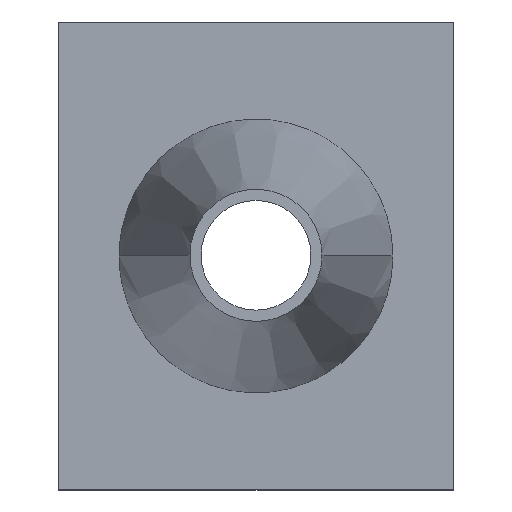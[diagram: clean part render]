
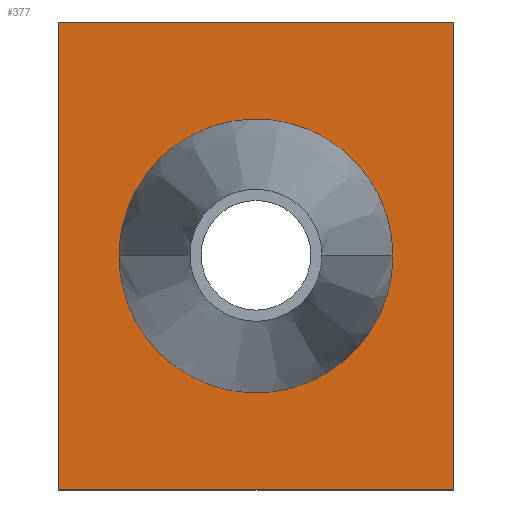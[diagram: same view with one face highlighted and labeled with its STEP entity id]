
A CAD part, top view. The second image highlights one B-rep face of the part: STEP entity #377.
In plain terms, the highlighted planar face has unit normal (0, 0, 1).
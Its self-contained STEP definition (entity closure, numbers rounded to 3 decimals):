
#167=CARTESIAN_POINT('Vertex',(0.,128.,3.)) ;
#174=CARTESIAN_POINT('Vertex',(0.,0.,3.)) ;
#177=CARTESIAN_POINT('Line Origine',(0.,64.,3.)) ;
#198=CARTESIAN_POINT('Vertex',(108.,128.,3.)) ;
#201=CARTESIAN_POINT('Line Origine',(54.,128.,3.)) ;
#222=CARTESIAN_POINT('Vertex',(108.,0.,3.)) ;
#225=CARTESIAN_POINT('Line Origine',(108.,64.,3.)) ;
#242=CARTESIAN_POINT('Line Origine',(54.,0.,3.)) ;
#324=CARTESIAN_POINT('Axis2P3D Location',(0.,0.,3.)) ;
#336=CARTESIAN_POINT('Control Point',(91.442,64.,3.)) ;
#337=CARTESIAN_POINT('Control Point',(91.442,70.011,3.)) ;
#338=CARTESIAN_POINT('Control Point',(90.236,76.021,3.)) ;
#339=CARTESIAN_POINT('Control Point',(87.822,81.71,3.)) ;
#340=CARTESIAN_POINT('Control Point',(80.852,91.797,3.)) ;
#341=CARTESIAN_POINT('Control Point',(70.529,98.415,3.)) ;
#342=CARTESIAN_POINT('Control Point',(64.76,100.631,3.)) ;
#343=CARTESIAN_POINT('Control Point',(52.66,102.625,3.)) ;
#344=CARTESIAN_POINT('Control Point',(40.728,99.797,3.)) ;
#345=CARTESIAN_POINT('Control Point',(35.126,97.187,3.)) ;
#346=CARTESIAN_POINT('Control Point',(25.712,90.186,3.)) ;
#347=CARTESIAN_POINT('Control Point',(19.579,80.228,3.)) ;
#348=CARTESIAN_POINT('Control Point',(17.564,74.983,3.)) ;
#349=CARTESIAN_POINT('Control Point',(16.558,69.491,3.)) ;
#350=CARTESIAN_POINT('Control Point',(16.558,64.,3.)) ;
#351=CARTESIAN_POINT('Vertex',(91.442,64.,3.)) ;
#353=CARTESIAN_POINT('Vertex',(16.558,64.,3.)) ;
#357=CARTESIAN_POINT('Control Point',(91.442,64.,3.)) ;
#358=CARTESIAN_POINT('Control Point',(91.442,57.989,3.)) ;
#359=CARTESIAN_POINT('Control Point',(90.236,51.979,3.)) ;
#360=CARTESIAN_POINT('Control Point',(87.822,46.29,3.)) ;
#361=CARTESIAN_POINT('Control Point',(80.852,36.203,3.)) ;
#362=CARTESIAN_POINT('Control Point',(70.529,29.585,3.)) ;
#363=CARTESIAN_POINT('Control Point',(64.76,27.369,3.)) ;
#364=CARTESIAN_POINT('Control Point',(52.66,25.375,3.)) ;
#365=CARTESIAN_POINT('Control Point',(40.728,28.203,3.)) ;
#366=CARTESIAN_POINT('Control Point',(35.126,30.813,3.)) ;
#367=CARTESIAN_POINT('Control Point',(25.712,37.814,3.)) ;
#368=CARTESIAN_POINT('Control Point',(19.579,47.772,3.)) ;
#369=CARTESIAN_POINT('Control Point',(17.564,53.017,3.)) ;
#370=CARTESIAN_POINT('Control Point',(16.558,58.509,3.)) ;
#371=CARTESIAN_POINT('Control Point',(16.558,64.,3.)) ;
#178=DIRECTION('Vector Direction',(0.,1.,0.)) ;
#202=DIRECTION('Vector Direction',(-1.,0.,0.)) ;
#226=DIRECTION('Vector Direction',(0.,1.,0.)) ;
#243=DIRECTION('Vector Direction',(1.,0.,0.)) ;
#325=DIRECTION('Axis2P3D Direction',(0.,0.,1.)) ;
#326=DIRECTION('Axis2P3D XDirection',(1.,0.,0.)) ;
#327=AXIS2_PLACEMENT_3D('Plane Axis2P3D',#324,#325,#326) ;
#330=ORIENTED_EDGE('',*,*,#181,.F.) ;
#331=ORIENTED_EDGE('',*,*,#246,.T.) ;
#332=ORIENTED_EDGE('',*,*,#229,.T.) ;
#333=ORIENTED_EDGE('',*,*,#205,.T.) ;
#374=ORIENTED_EDGE('',*,*,#355,.F.) ;
#375=ORIENTED_EDGE('',*,*,#372,.T.) ;
#376=FACE_BOUND('',#373,.T.) ;
#179=VECTOR('Line Direction',#178,1.) ;
#203=VECTOR('Line Direction',#202,1.) ;
#227=VECTOR('Line Direction',#226,1.) ;
#244=VECTOR('Line Direction',#243,1.) ;
#377=ADVANCED_FACE('PartBody',(#334,#376),#328,.T.) ;
#335=B_SPLINE_CURVE_WITH_KNOTS('',5,(#336,#337,#338,#339,#340,#341,#342,#343,#344,#345,#346,#347,#348,#349,#350),.UNSPECIFIED.,.F.,.U.,(6,3,3,3,6),(0.,32.375,64.755,97.135,126.713),.UNSPECIFIED.) ;
#356=B_SPLINE_CURVE_WITH_KNOTS('',5,(#357,#358,#359,#360,#361,#362,#363,#364,#365,#366,#367,#368,#369,#370,#371),.UNSPECIFIED.,.F.,.U.,(6,3,3,3,6),(0.,32.375,64.755,97.135,126.713),.UNSPECIFIED.) ;
#181=EDGE_CURVE('',#175,#168,#180,.T.) ;
#205=EDGE_CURVE('',#199,#168,#204,.T.) ;
#229=EDGE_CURVE('',#223,#199,#228,.T.) ;
#246=EDGE_CURVE('',#175,#223,#245,.T.) ;
#355=EDGE_CURVE('',#352,#354,#335,.T.) ;
#372=EDGE_CURVE('',#352,#354,#356,.T.) ;
#329=EDGE_LOOP('',(#330,#331,#332,#333)) ;
#373=EDGE_LOOP('',(#374,#375)) ;
#334=FACE_OUTER_BOUND('',#329,.T.) ;
#180=LINE('Line',#177,#179) ;
#204=LINE('Line',#201,#203) ;
#228=LINE('Line',#225,#227) ;
#245=LINE('Line',#242,#244) ;
#328=PLANE('',#327) ;
#168=VERTEX_POINT('',#167) ;
#175=VERTEX_POINT('',#174) ;
#199=VERTEX_POINT('',#198) ;
#223=VERTEX_POINT('',#222) ;
#352=VERTEX_POINT('',#351) ;
#354=VERTEX_POINT('',#353) ;
